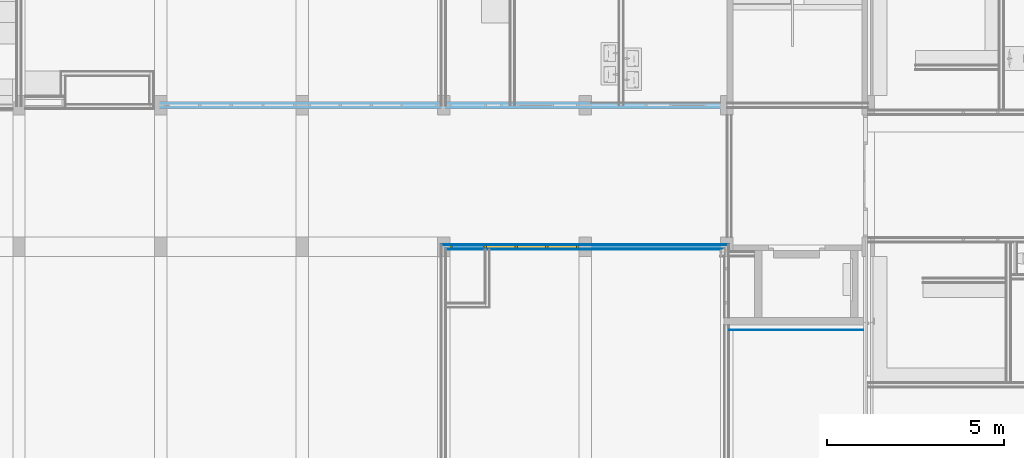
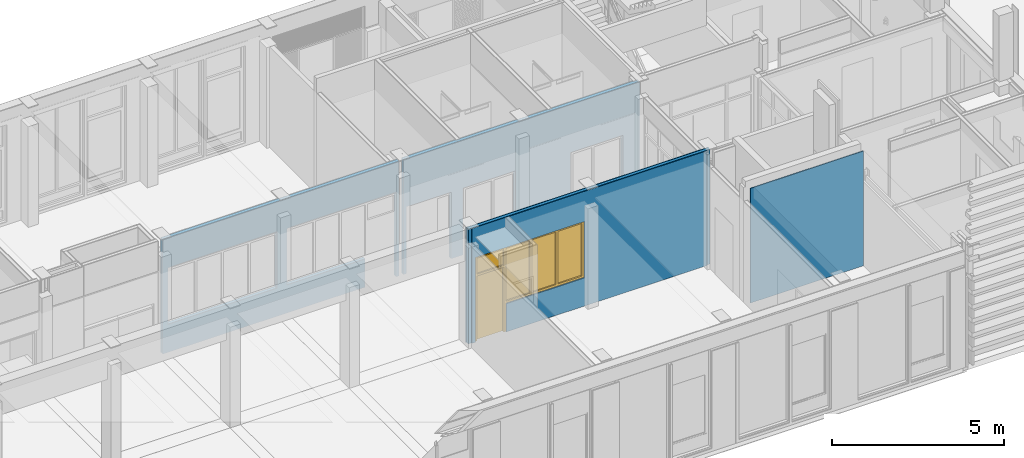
# One storey, part 64 of 109: 7 building element parts, 1 door, 6 openings, 3 elements without a shape of their own, plus 3 elements that do not belong to this part.
"""IFC2X3 building model written with IfcOpenShell, lengths in millimetres."""

from ifc_helpers import new_model, entity, si_unit, converted_unit, derived_unit, money_unit, direction, frame, origin_with_axes, place, context, subcontext, project, spatial, open_shell, faceted_brep, surface_model, material, type_object, element, fill, aggregate, save


model = new_model("IFC2X3")

# Units and contexts
model_context = context("Model", 3, precision=0.01, world=origin_with_axes(), true_north=direction((0.0, 1.0)))
body_context = subcontext(model_context, "Body", "Model", "MODEL_VIEW")
ifc_project = project(units=[si_unit("LENGTHUNIT", "METRE", prefix="MILLI"), si_unit("AREAUNIT", "SQUARE_METRE"), si_unit("VOLUMEUNIT", "CUBIC_METRE"), converted_unit("PLANEANGLEUNIT", "DEGREE", entity("IfcPlaneAngleMeasure", 0.0174532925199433), si_unit("PLANEANGLEUNIT", "RADIAN"), dimensions=[0, 0, 0, 0, 0, 0, 0]), money_unit("EUR"), converted_unit("TIMEUNIT", "Year", entity("IfcTimeMeasure", 31557600.0), si_unit("TIMEUNIT", "SECOND"), dimensions=[0, 0, 1, 0, 0, 0, 0]), si_unit("MASSUNIT", "GRAM", prefix="KILO"), si_unit("THERMODYNAMICTEMPERATUREUNIT", "DEGREE_CELSIUS"), si_unit("LUMINOUSINTENSITYUNIT", "LUMEN"), si_unit("ENERGYUNIT", "JOULE", prefix="MEGA"), derived_unit("THERMALCONDUCTANCEUNIT", [(si_unit("POWERUNIT", "WATT"), 1), (si_unit("LENGTHUNIT", "METRE"), -1), (si_unit("THERMODYNAMICTEMPERATUREUNIT", "KELVIN"), -1)]), derived_unit("SPECIFICHEATCAPACITYUNIT", [(si_unit("ENERGYUNIT", "JOULE"), 1), (si_unit("MASSUNIT", "GRAM", prefix="KILO"), -1), (si_unit("THERMODYNAMICTEMPERATUREUNIT", "KELVIN"), -1)]), derived_unit("MASSDENSITYUNIT", [(si_unit("MASSUNIT", "GRAM", prefix="KILO"), 1), (si_unit("VOLUMEUNIT", "CUBIC_METRE"), -1)])], contexts=[model_context])

# Site, building, storey
site_placement = place(None, origin_with_axes())
site = spatial("IfcSite", under=ifc_project, at=site_placement, Name="<site naam>", CompositionType="ELEMENT")
building_placement = place(site_placement, origin_with_axes())
building = spatial("IfcBuilding", under=site, at=building_placement, Name="<Naam gebouw>", CompositionType="ELEMENT")
storey_placement = place(building_placement, origin_with_axes())
storey = spatial("IfcBuildingStorey", under=building, at=storey_placement, Name="00 Begane grond", CompositionType="ELEMENT", Elevation=0.0)

# Door
door_style = type_object("IfcDoorStyle", Name="D1 bl zl1-b 27", ConstructionType="NOTDEFINED", OperationType="SINGLE_SWING_LEFT", ParameterTakesPrecedence=False, Sizeable=False)
wall_1_placement = place(storey_placement, frame((40000.00000000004, 8000.000000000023, 0.0), z_axis=(0.0, 0.0, 1.0), x_axis=(1.0, 0.0, 0.0)))
opening_1_placement = place(wall_1_placement, frame((1999.999999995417, 0.0, 0.0), z_axis=(0.0, 0.0, 1.0), x_axis=(1.0, 0.0, 0.0)))
door_placement = place(opening_1_placement, frame((-450.0000000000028, 0.0, 0.0), z_axis=(0.0, 0.0, 1.0), x_axis=(1.0, 0.0, 0.0)))
door = element("IfcDoor", 1, at=door_placement, inside=storey, type_object=door_style, Name="22_BI-E-02b_305", ObjectType="DOOR", OverallHeight=3000.0, OverallWidth=3650.0, context=body_context, shape_type="SurfaceModel", body=[
    faceted_brep([(2274.999999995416, 74.99999999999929, 1000.0), (2274.999999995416, -38.9999999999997, 1000.0), (2207.999999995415, -38.9999999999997, 1000.0), (2207.999999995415, 74.99999999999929, 1000.0), (2274.999999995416, 74.99999999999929, 2933.0), (2274.999999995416, -38.9999999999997, 2933.0), (2207.999999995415, -38.9999999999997, 2933.0), (2207.999999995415, -38.9999999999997, 1067.0), (2207.999999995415, 74.99999999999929, 1067.0), (2207.999999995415, 74.99999999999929, 2933.0)], [[[0, 1, 2, 3]], [[4, 5, 1, 0]], [[1, 5, 6, 7, 2]], [[3, 2, 7, 8]], [[0, 3, 8, 9, 4]], [[9, 6, 5, 4]], [[8, 7, 6, 9]]]),
    faceted_brep([(-407.9999999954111, 35.00000000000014, 2317.0), (-407.9999999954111, 35.00000000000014, 2300.0), (-407.9999999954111, -39.00000000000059, 2300.0), (-407.9999999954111, -39.00000000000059, 2367.0), (-407.9999999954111, 74.99999999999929, 2367.0), (-407.9999999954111, 74.99999999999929, 2317.0), (-390.9999999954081, 35.00000000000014, 2317.0), (-390.9999999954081, 35.00000000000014, 0.0), (-407.9999999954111, 35.00000000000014, 0.0), (-407.9999999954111, -39.00000000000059, 0.0), (-340.999999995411, -39.00000000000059, 0.0), (-340.999999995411, -39.00000000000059, 1000.0), (-340.999999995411, -39.00000000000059, 1067.0), (-340.999999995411, -39.00000000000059, 2933.0), (-407.9999999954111, -39.00000000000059, 2933.0), (-407.9999999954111, 74.99999999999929, 2933.0), (-390.9999999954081, 74.99999999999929, 2317.0), (-340.999999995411, 74.99999999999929, 2933.0), (-340.999999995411, 74.99999999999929, 1067.0), (-340.999999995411, 74.99999999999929, 1000.0), (-340.999999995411, 74.99999999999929, 0.0), (-390.9999999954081, 74.99999999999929, 0.0)], [[[0, 1, 2, 3, 4, 5]], [[0, 6, 7, 8, 1]], [[8, 9, 2, 1]], [[2, 9, 10, 11, 12, 13, 14, 3]], [[15, 4, 3, 14]], [[16, 5, 4, 15, 17, 18, 19, 20, 21]], [[5, 16, 6, 0]], [[21, 7, 6, 16]], [[7, 21, 20, 10, 9, 8]], [[20, 19, 11, 10]], [[19, 18, 12, 11]], [[18, 17, 13, 12]], [[17, 15, 14, 13]]]),
    faceted_brep([(2207.999999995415, 74.99999999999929, 1067.0), (2207.999999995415, -38.9999999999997, 1067.0), (2207.999999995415, -38.9999999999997, 1000.0), (2207.999999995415, 74.99999999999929, 1000.0), (-340.999999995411, 74.99999999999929, 1067.0), (-340.999999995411, -39.00000000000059, 1067.0), (-340.999999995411, -39.00000000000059, 1000.0), (-340.999999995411, 74.99999999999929, 1000.0)], [[[0, 1, 2, 3]], [[4, 5, 1, 0]], [[1, 5, 6, 2]], [[3, 2, 6, 7]], [[0, 3, 7, 4]], [[7, 6, 5, 4]]]),
    faceted_brep([(-1324.999999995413, 74.99999999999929, 2317.0), (-1324.999999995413, 74.99999999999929, 0.0), (-1374.99999999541, 74.99999999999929, 0.0), (-1374.99999999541, 74.99999999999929, 2933.0), (-1307.99999999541, 74.99999999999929, 2933.0), (-1307.99999999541, 74.99999999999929, 2367.0), (-1307.99999999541, 74.99999999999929, 2317.0), (-1324.999999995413, 35.00000000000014, 2317.0), (-1324.999999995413, 35.00000000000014, 0.0), (-1307.99999999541, 35.00000000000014, 0.0), (-1307.99999999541, -39.00000000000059, 0.0), (-1374.99999999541, -39.00000000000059, 0.0), (-1374.99999999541, -39.00000000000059, 2933.0), (-1307.99999999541, -39.00000000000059, 2933.0), (-1307.99999999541, -39.00000000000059, 2367.0), (-1307.99999999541, 35.00000000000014, 2317.0), (-1307.99999999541, -39.00000000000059, 2300.0)], [[[0, 1, 2, 3, 4, 5, 6]], [[0, 7, 8, 1]], [[8, 9, 10, 11, 2, 1]], [[3, 2, 11, 12]], [[4, 3, 12, 13]], [[5, 4, 13, 14]], [[15, 6, 5, 14, 16, 10, 9]], [[6, 15, 7, 0]], [[8, 7, 15, 9]], [[14, 13, 12, 11, 10, 16]]]),
    faceted_brep([(2274.999999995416, 74.99999999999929, 3000.0), (2274.999999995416, -38.9999999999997, 3000.0), (2274.999999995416, -38.9999999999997, 2933.0), (2274.999999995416, 74.99999999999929, 2933.0), (-1374.99999999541, 74.99999999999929, 3000.0), (-1374.99999999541, -39.00000000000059, 3000.0), (-1374.99999999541, -39.00000000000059, 2933.0), (-1307.99999999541, -39.00000000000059, 2933.0), (-407.9999999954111, -39.00000000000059, 2933.0), (-340.999999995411, -39.00000000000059, 2933.0), (2207.999999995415, -38.9999999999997, 2933.0), (2207.999999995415, 74.99999999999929, 2933.0), (-340.999999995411, 74.99999999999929, 2933.0), (-407.9999999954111, 74.99999999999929, 2933.0), (-1307.99999999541, 74.99999999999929, 2933.0), (-1374.99999999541, 74.99999999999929, 2933.0)], [[[0, 1, 2, 3]], [[4, 5, 1, 0]], [[1, 5, 6, 7, 8, 9, 10, 2]], [[3, 2, 10, 11]], [[0, 3, 11, 12, 13, 14, 15, 4]], [[15, 6, 5, 4]], [[14, 7, 6, 15]], [[13, 8, 7, 14]], [[12, 9, 8, 13]], [[11, 10, 9, 12]]]),
    faceted_brep([(-1307.99999999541, 35.00000000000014, 2317.0), (-1307.99999999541, 35.00000000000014, 2300.0), (-1307.99999999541, -39.00000000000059, 2300.0), (-1307.99999999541, -39.00000000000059, 2367.0), (-1307.99999999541, 74.99999999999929, 2367.0), (-1307.99999999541, 74.99999999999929, 2317.0), (-407.9999999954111, 35.00000000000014, 2317.0), (-407.9999999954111, 35.00000000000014, 2300.0), (-407.9999999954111, -39.00000000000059, 2300.0), (-407.9999999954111, -39.00000000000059, 2367.0), (-407.9999999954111, 74.99999999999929, 2367.0), (-407.9999999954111, 74.99999999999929, 2317.0)], [[[0, 1, 2, 3, 4, 5]], [[0, 6, 7, 1]], [[7, 8, 2, 1]], [[8, 9, 3, 2]], [[10, 4, 3, 9]], [[5, 4, 10, 11]], [[5, 11, 6, 0]], [[6, 11, 10, 9, 8, 7]]]),
    faceted_brep([(-1324.999999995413, 74.99999999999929, 0.0), (-390.9999999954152, 74.99999999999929, 0.0), (-390.9999999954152, 35.00000000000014, 0.0), (-1324.999999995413, 35.00000000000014, 0.0), (-1324.999999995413, 74.99999999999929, 2317.0), (-390.9999999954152, 74.99999999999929, 2317.0), (-390.9999999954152, 35.00000000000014, 2317.0), (-1324.999999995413, 35.00000000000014, 2317.0)], [[[0, 1, 2, 3]], [[0, 4, 5, 1]], [[1, 5, 6, 2]], [[3, 2, 6, 7]], [[4, 0, 3, 7]], [[5, 4, 7, 6]]]),
    surface_model("IfcShellBasedSurfaceModel", [(-407.9999999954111, 20.99999999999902, 2367.0), (-1307.99999999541, 20.99999999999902, 2367.0), (-1307.99999999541, 20.99999999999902, 2933.0), (-407.9999999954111, 20.99999999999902, 2933.0)], [open_shell([[[0, 1, 2, 3]]])]),
    surface_model("IfcShellBasedSurfaceModel", [(-407.9999999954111, 8.999999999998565, 2367.0), (-407.9999999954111, 9.000000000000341, 2933.0), (-1307.99999999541, 9.000000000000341, 2933.0), (-1307.99999999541, 8.999999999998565, 2367.0)], [open_shell([[[0, 1, 2, 3]]])]),
    surface_model("IfcShellBasedSurfaceModel", [(1402.999999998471, 20.99999999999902, 1067.0), (1402.999999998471, 20.99999999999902, 2933.0), (2207.999999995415, 20.99999999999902, 2933.0), (2207.999999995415, 20.99999999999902, 1067.0)], [open_shell([[[0, 1, 2, 3]]])]),
    surface_model("IfcShellBasedSurfaceModel", [(1402.999999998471, 8.999999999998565, 1067.0), (2207.999999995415, 8.999999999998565, 1067.0), (2207.999999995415, 9.000000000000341, 2933.0), (1402.999999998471, 9.000000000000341, 2933.0)], [open_shell([[[0, 1, 2, 3]]])]),
    surface_model("IfcShellBasedSurfaceModel", [(531.0000000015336, 20.99999999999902, 1067.0), (531.0000000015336, 20.99999999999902, 2933.0), (1335.999999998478, 20.99999999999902, 2933.0), (1335.999999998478, 20.99999999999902, 1067.0)], [open_shell([[[0, 1, 2, 3]]])]),
    surface_model("IfcShellBasedSurfaceModel", [(531.0000000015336, 8.999999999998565, 1067.0), (1335.999999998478, 8.999999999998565, 1067.0), (1335.999999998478, 9.000000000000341, 2933.0), (531.0000000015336, 9.000000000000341, 2933.0)], [open_shell([[[0, 1, 2, 3]]])]),
    surface_model("IfcShellBasedSurfaceModel", [(-340.999999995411, 20.99999999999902, 1067.0), (-340.999999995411, 20.99999999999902, 2933.0), (464.0000000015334, 20.99999999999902, 2933.0), (464.0000000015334, 20.99999999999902, 1067.0)], [open_shell([[[0, 1, 2, 3]]])]),
    surface_model("IfcShellBasedSurfaceModel", [(-340.999999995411, 8.999999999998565, 1067.0), (464.0000000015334, 8.999999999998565, 1067.0), (464.0000000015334, 9.000000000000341, 2933.0), (-340.999999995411, 9.000000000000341, 2933.0)], [open_shell([[[0, 1, 2, 3]]])]),
    faceted_brep([(1402.999999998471, 74.99999999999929, 1067.0), (1402.999999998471, -38.9999999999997, 1067.0), (1335.999999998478, -38.9999999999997, 1067.0), (1335.999999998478, 74.99999999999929, 1067.0), (1402.999999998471, 74.99999999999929, 2933.0), (1402.999999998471, -38.9999999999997, 2933.0), (1335.999999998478, -38.9999999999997, 2933.0), (1335.999999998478, 74.99999999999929, 2933.0)], [[[0, 1, 2, 3]], [[4, 5, 1, 0]], [[1, 5, 6, 2]], [[3, 2, 6, 7]], [[0, 3, 7, 4]], [[7, 6, 5, 4]]]),
    faceted_brep([(531.0000000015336, 74.99999999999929, 1067.0), (531.0000000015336, -38.9999999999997, 1067.0), (464.0000000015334, -38.9999999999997, 1067.0), (464.0000000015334, 74.99999999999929, 1067.0), (531.0000000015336, 74.99999999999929, 2933.0), (531.0000000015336, -38.9999999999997, 2933.0), (464.0000000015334, -38.9999999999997, 2933.0), (464.0000000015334, 74.99999999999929, 2933.0)], [[[0, 1, 2, 3]], [[4, 5, 1, 0]], [[1, 5, 6, 2]], [[3, 2, 6, 7]], [[0, 3, 7, 4]], [[7, 6, 5, 4]]]),
])

# Wall, opening
wall_type_1 = type_object("IfcWallType", Name="MS-01 GF 150 ECO DGS/2.100.2.A 150", PredefinedType="NOTDEFINED")
wall_1 = element("IfcWall", 2, at=wall_1_placement, inside=storey, type_object=wall_type_1, Name="22_Binnenwand_MS-01")
opening_1 = element("IfcOpeningElement", 3, at=opening_1_placement, cuts=wall_1, Name="22_BI-E-02b_305", context=body_context, shape_type="Brep", body=[
    faceted_brep([(-1824.999999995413, -76.00000000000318, 3000.0), (-1824.999999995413, -76.00000000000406, 0.0), (-790.9999999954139, -76.00000000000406, 0.0), (-790.9999999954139, -76.00000000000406, 1000.0), (1824.999999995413, -76.00000000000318, 1000.0), (1824.999999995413, -76.00000000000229, 3000.0), (-1824.999999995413, 76.00000000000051, 3000.0), (-1824.999999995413, 75.99999999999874, 0.0), (-790.9999999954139, 75.99999999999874, 0.0), (-790.9999999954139, 75.99999999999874, 1000.0), (1824.999999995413, 75.99999999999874, 1000.0), (1824.999999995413, 76.00000000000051, 3000.0)], [[[0, 1, 2, 3, 4, 5]], [[6, 7, 1, 0]], [[7, 8, 2, 1]], [[8, 9, 3, 2]], [[9, 10, 4, 3]], [[10, 11, 5, 4]], [[11, 6, 0, 5]], [[8, 7, 6, 11, 10, 9]]]),
])

fill(opening_1, door)

# Building element part
ifc_material_1 = material(Name="gipsplaat")
building_element_part_1_placement = place(wall_1_placement, origin_with_axes())
building_element_part_1 = element("IfcBuildingElementPart", 4, at=building_element_part_1_placement, material=ifc_material_1, Name="gipsplaat", context=body_context, shape_type="Brep", body=[
    faceted_brep([(8074.999999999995, 62.50000000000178, 3.000000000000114), (8074.999999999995, 75.00000000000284, 3.000000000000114), (8074.999999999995, 75.00000000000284, 4070.0), (8074.999999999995, 62.50000000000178, 4070.0), (8037.380267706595, 75.00000000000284, 3.000000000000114), (8037.380267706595, 62.50000000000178, 3.000000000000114), (8037.380267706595, 75.00000024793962, 0.0), (4174.55451779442, 75.00002570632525, 0.0), (4174.55451779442, 75.00002570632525, 3.000000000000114), (175.0000000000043, 75.00002570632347, 3.000000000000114), (175.0000000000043, 75.00002570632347, 0.0), (-75.00000000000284, 74.99999999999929, 0.0), (-75.00000000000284, 75.00000000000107, 4070.0), (-75.00000000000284, 62.5, 4070.0), (-75.00000000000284, 62.5, 0.0), (175.0000000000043, 62.5, 0.0), (175.0000000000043, 62.5, 3.000000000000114), (4174.55451779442, 62.50000000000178, 3.000000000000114), (4174.55451779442, 62.50000000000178, 0.0), (8037.380267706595, 62.50000000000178, 0.0)], [[[0, 1, 2, 3]], [[4, 1, 0, 5]], [[4, 6, 7, 8, 9, 10, 11, 12, 2, 1]], [[3, 2, 12, 13]], [[5, 0, 3, 13, 14, 15, 16, 17, 18, 19]], [[6, 4, 5, 19]], [[6, 19, 18, 7]], [[8, 7, 18, 17]], [[9, 8, 17, 16]], [[10, 9, 16, 15]], [[10, 15, 14, 11]], [[14, 13, 12, 11]]]),
])

building_element_part_2_placement = place(wall_1_placement, origin_with_axes())
building_element_part_2 = element("IfcBuildingElementPart", 5, at=building_element_part_2_placement, material=ifc_material_1, Name="gipsplaat", context=body_context, shape_type="Brep", body=[
    faceted_brep([(8062.499999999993, 54.99999853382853, 0.0), (8062.499999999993, 54.99999853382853, 3.000000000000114), (8062.499999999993, 62.50000000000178, 3.000000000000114), (8062.499999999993, 62.50000000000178, 4070.0), (8062.499999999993, 50.00000000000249, 4070.0), (8062.499999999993, 50.00000000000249, 0.0), (8037.380267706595, 54.99999853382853, 0.0), (8037.380267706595, 54.99999853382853, 3.000000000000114), (8037.380267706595, 62.50000000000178, 3.000000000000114), (8037.380267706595, 62.50000000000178, 0.0), (4174.55451779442, 62.50000000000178, 0.0), (4174.55451779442, 62.50000000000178, 3.000000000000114), (175.0000000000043, 62.5, 3.000000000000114), (175.0000000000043, 62.5, 0.0), (-62.5, 62.5, 0.0), (-62.5, 62.5, 4070.0), (-62.5, 50.00000000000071, 4070.0), (4174.55451779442, 50.00000000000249, 3.000000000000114), (4174.55451779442, 50.00000000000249, 0.0), (-62.5, 50.00000000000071, 0.0), (175.0000000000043, 50.00000000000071, 0.0), (175.0000000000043, 50.00000000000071, 3.000000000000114)], [[[0, 1, 2, 3, 4, 5]], [[1, 0, 6, 7]], [[8, 2, 1, 7]], [[8, 9, 10, 11, 12, 13, 14, 15, 3, 2]], [[4, 3, 15, 16]], [[17, 18, 5, 4, 16, 19, 20, 21]], [[6, 0, 5, 18, 10, 9]], [[9, 8, 7, 6]], [[11, 10, 18, 17]], [[12, 11, 17, 21]], [[13, 12, 21, 20]], [[13, 20, 19, 14]], [[19, 16, 15, 14]]]),
])

ifc_material_2 = material(Name="isolatie_steenwol LSW")
building_element_part_3_placement = place(wall_1_placement, origin_with_axes())
building_element_part_3 = element("IfcBuildingElementPart", 6, at=building_element_part_3_placement, material=ifc_material_2, Name="isolatie_steenwol LSW", context=body_context, shape_type="Brep", body=[
    faceted_brep([(175.0000000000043, 50.00000000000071, 3.000000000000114), (175.0000000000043, 50.00000000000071, 0.0), (-49.99999999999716, 50.00000000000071, 0.0), (-49.99999999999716, 50.00000000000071, 4070.0), (8049.99999999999, 50.00000000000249, 4070.0), (8049.99999999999, 50.00000000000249, 0.0), (4174.55451779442, 50.00000000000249, 0.0), (4174.55451779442, 50.00000000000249, 3.000000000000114), (175.0000000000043, -49.99999999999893, 3.000000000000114), (175.0000000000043, -49.99999999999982, 0.0), (-49.99999999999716, -49.99999999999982, 0.0), (-49.99999999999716, -49.99999999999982, 4070.0), (8049.99999999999, -49.99999999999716, 4070.0), (8049.99999999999, -49.99999999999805, 0.0), (4174.55451779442, -49.99999999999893, 0.0), (4174.55451779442, -49.99999999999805, 3.000000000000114)], [[[0, 1, 2, 3, 4, 5, 6, 7]], [[1, 0, 8, 9]], [[1, 9, 10, 2]], [[10, 11, 3, 2]], [[12, 4, 3, 11]], [[4, 12, 13, 5]], [[14, 6, 5, 13]], [[7, 6, 14, 15]], [[0, 7, 15, 8]], [[15, 14, 13, 12, 11, 10, 9, 8]]]),
])

building_element_part_4_placement = place(wall_1_placement, origin_with_axes())
building_element_part_4 = element("IfcBuildingElementPart", 7, at=building_element_part_4_placement, material=ifc_material_1, Name="gipsplaat", context=body_context, shape_type="Brep", body=[
    faceted_brep([(175.0000000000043, -62.5, 3.000000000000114), (175.0000000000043, -62.5, 0.0), (62.5, -62.5, 0.0), (62.5, -62.5, 4070.0), (7937.499999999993, -62.49999999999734, 4070.0), (7937.499999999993, -62.49999999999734, 0.0), (4174.55451779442, -62.49999999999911, 0.0), (4174.55451779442, -62.49999999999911, 3.000000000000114), (175.0000000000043, -74.99999999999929, 3.000000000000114), (175.0000000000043, -75.00000000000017, 0.0), (62.5, -75.00000000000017, 0.0), (62.5, -75.00000000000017, 4070.0), (7937.499999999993, -74.99999999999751, 4070.0), (7937.499999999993, -74.99999999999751, 0.0), (4174.55451779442, -74.99999999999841, 0.0), (4174.55451779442, -74.99999999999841, 3.000000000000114)], [[[0, 1, 2, 3, 4, 5, 6, 7]], [[1, 0, 8, 9]], [[1, 9, 10, 2]], [[10, 11, 3, 2]], [[12, 4, 3, 11]], [[4, 12, 13, 5]], [[14, 6, 5, 13]], [[7, 6, 14, 15]], [[0, 7, 15, 8]], [[15, 14, 13, 12, 11, 10, 9, 8]]]),
])

building_element_part_5_placement = place(wall_1_placement, origin_with_axes())
building_element_part_5 = element("IfcBuildingElementPart", 8, at=building_element_part_5_placement, material=ifc_material_1, Name="gipsplaat", context=body_context, shape_type="Brep", body=[
    faceted_brep([(175.0000000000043, -50.00000000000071, 3.000000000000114), (175.0000000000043, -49.99999999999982, 0.0), (49.99999999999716, -49.99999999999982, 0.0), (49.99999999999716, -49.99999999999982, 4070.0), (7949.999999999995, -49.99999999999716, 4070.0), (7949.999999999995, -49.99999999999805, 0.0), (4174.55451779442, -49.99999999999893, 0.0), (4174.55451779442, -49.99999999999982, 3.000000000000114), (175.0000000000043, -62.5, 3.000000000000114), (175.0000000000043, -62.5, 0.0), (49.99999999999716, -62.5, 0.0), (49.99999999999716, -62.5, 4070.0), (7949.999999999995, -62.49999999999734, 4070.0), (7949.999999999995, -62.49999999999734, 0.0), (4174.55451779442, -62.49999999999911, 0.0), (4174.55451779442, -62.49999999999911, 3.000000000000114)], [[[0, 1, 2, 3, 4, 5, 6, 7]], [[1, 0, 8, 9]], [[1, 9, 10, 2]], [[10, 11, 3, 2]], [[12, 4, 3, 11]], [[4, 12, 13, 5]], [[14, 6, 5, 13]], [[7, 6, 14, 15]], [[0, 7, 15, 8]], [[15, 14, 13, 12, 11, 10, 9, 8]]]),
])

aggregate(wall_1, [building_element_part_1, building_element_part_2, building_element_part_3, building_element_part_4, building_element_part_5])

# Wall, openings, building element parts
wall_2_placement = place(storey_placement, frame((32000.05040030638, 11999.96371028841, 0.0), z_axis=(0.0, 0.0, 1.0), x_axis=(0.999999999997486, 2.242345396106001e-06, 0.0)))
wall_2 = element("IfcWall", 9, at=wall_2_placement, inside=storey, type_object=wall_type_1, Name="22_Binnenwand_MS-01")
opening_2_placement = place(wall_2_placement, frame((1999.982031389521, 0.0, 1000.0), z_axis=(0.0, 0.0, 1.0), x_axis=(1.0, 0.0, 0.0)))
element("IfcOpeningElement", 10, at=opening_2_placement, cuts=wall_2, Name="22_BI-E-01_305", context=body_context, shape_type="Brep", body=[
    faceted_brep([(1824.967290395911, 76.02730055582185, 2000.0), (1824.967290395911, 76.02730055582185, 0.0), (-1824.966613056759, 76.03548496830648, 0.0), (-1824.966613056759, 76.03548496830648, 2000.0), (1824.966949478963, -76.00857685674, 2000.0), (1824.966949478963, -76.00857685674, 0.0), (-1824.966953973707, -76.00039244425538, 0.0), (-1824.966953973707, -76.00039244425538, 2000.0)], [[[0, 1, 2, 3]], [[4, 5, 1, 0]], [[5, 6, 2, 1]], [[6, 7, 3, 2]], [[7, 4, 0, 3]], [[6, 5, 4, 7]]]),
])
opening_3_placement = place(wall_2_placement, frame((10949.95021639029, 0.0, 0.0), z_axis=(0.0, 0.0, 1.0), x_axis=(1.0, 0.0, 0.0)))
element("IfcOpeningElement", 11, at=opening_3_placement, cuts=wall_2, Name="22_BI-C-01_305", context=body_context, shape_type="Brep", body=[
    faceted_brep([(875.0003386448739, 76.00936178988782, 2367.0), (875.0003386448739, 76.00936178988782, 0.0), (-874.9996613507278, 76.0132858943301, 0.0), (-874.9996613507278, 76.0132858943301, 2367.0), (874.9999977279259, -76.02651562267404, 2367.0), (874.9999977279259, -76.02651562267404, 0.0), (-875.0000022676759, -76.02259151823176, 0.0), (-875.0000022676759, -76.02259151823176, 2367.0)], [[[0, 1, 2, 3]], [[4, 5, 1, 0]], [[5, 6, 2, 1]], [[6, 7, 3, 2]], [[7, 4, 0, 3]], [[6, 5, 4, 7]]]),
])
opening_4_placement = place(wall_2_placement, frame((8924.950216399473, 0.0, 0.0), z_axis=(0.0, 0.0, 1.0), x_axis=(1.0, 0.0, 0.0)))
element("IfcOpeningElement", 12, at=opening_4_placement, cuts=wall_2, Name="22_BI-C-02 sp_305", context=body_context, shape_type="Brep", body=[
    faceted_brep([(750.000338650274, 76.0141828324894, 2367.0), (750.000338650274, 76.0141828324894, 0.0), (-749.99966134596, 76.01754635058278, 0.0), (-749.99966134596, 76.01754635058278, 2367.0), (749.999997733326, -76.02169458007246, 2367.0), (749.999997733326, -76.02169458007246, 0.0), (-750.0000022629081, -76.01833106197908, 0.0), (-750.0000022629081, -76.01833106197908, 2367.0)], [[[0, 1, 2, 3]], [[4, 5, 1, 0]], [[5, 6, 2, 1]], [[6, 7, 3, 2]], [[7, 4, 0, 3]], [[6, 5, 4, 7]]]),
])
opening_5_placement = place(wall_2_placement, frame((14554.32530861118, 0.0, 0.0), z_axis=(0.0, 0.0, 1.0), x_axis=(1.0, 0.0, 0.0)))
element("IfcOpeningElement", 13, at=opening_5_placement, cuts=wall_2, Name="22_BI-C-01 sp_305", context=body_context, shape_type="Brep", body=[
    faceted_brep([(875.0003386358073, 76.00127953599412, 2367.0), (875.0003386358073, 76.00127953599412, 0.0), (-874.9996613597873, 76.00520364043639, 0.0), (-874.9996613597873, 76.00520364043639, 2367.0), (874.9999977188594, -76.03459787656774, 2367.0), (874.9999977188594, -76.03459787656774, 0.0), (-875.0000022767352, -76.03067377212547, 0.0), (-875.0000022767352, -76.03067377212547, 2367.0)], [[[0, 1, 2, 3]], [[4, 5, 1, 0]], [[5, 6, 2, 1]], [[6, 7, 3, 2]], [[7, 4, 0, 3]], [[6, 5, 4, 7]]]),
])
opening_6_placement = place(wall_2_placement, frame((5999.95021640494, 0.0, 0.0), z_axis=(0.0, 0.0, 1.0), x_axis=(1.0, 0.0, 0.0)))
element("IfcOpeningElement", 14, at=opening_6_placement, cuts=wall_2, Name="22_BI-E-02_305", context=body_context, shape_type="Brep", body=[
    faceted_brep([(1825.000338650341, 76.01833117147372, 3000.0), (1825.000338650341, 76.01833117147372, 0.0), (791.0003386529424, 76.02064975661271, 0.0), (791.0003386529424, 76.02064975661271, 1000.0), (-1824.999661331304, 76.02651573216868, 1000.0), (-1824.999661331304, 76.02651573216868, 3000.0), (1824.999997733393, -76.01754624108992, 3000.0), (1824.999997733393, -76.01754624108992, 0.0), (790.9999977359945, -76.01522765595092, 0.0), (790.9999977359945, -76.01522765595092, 1000.0), (-1825.000002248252, -76.00936168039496, 1000.0), (-1825.000002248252, -76.00936168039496, 3000.0)], [[[0, 1, 2, 3, 4, 5]], [[6, 7, 1, 0]], [[7, 8, 2, 1]], [[8, 9, 3, 2]], [[9, 10, 4, 3]], [[10, 11, 5, 4]], [[11, 6, 0, 5]], [[8, 7, 6, 11, 10, 9]]]),
])
building_element_part_6_placement = place(wall_2_placement, origin_with_axes())
building_element_part_6 = element("IfcBuildingElementPart", 15, at=building_element_part_6_placement, material=ifc_material_1, Name="gipsplaat", context=body_context, shape_type="Brep", body=[
    faceted_brep([(8074.949711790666, 49.98189317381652, 4070.0), (15999.94971181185, 49.9641225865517, 4070.0), (15999.94973984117, 62.46412258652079, 4070.0), (8074.949739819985, 62.48189317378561, 4070.0), (8074.949711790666, 49.98189317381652, 0.0), (15999.94971181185, 49.9641225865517, 0.0), (15999.94973984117, 62.46412258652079, 0.0), (8074.949739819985, 62.48189317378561, 0.0)], [[[0, 1, 2, 3]], [[4, 5, 1, 0]], [[2, 1, 5, 6]], [[3, 2, 6, 7]], [[4, 0, 3, 7]], [[7, 6, 5, 4]]]),
    faceted_brep([(7924.949711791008, 49.98222952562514, 3.000000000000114), (7924.949739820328, 62.48222952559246, 3.000000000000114), (7924.949739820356, 62.48222952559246, 4070.0), (7924.949711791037, 49.98222952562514, 4070.0), (0.0001401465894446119, 62.4999999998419, 3.000000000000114), (0.000112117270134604, 49.99999999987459, 3.000000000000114), (0.0001401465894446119, 62.4999999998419, 4070.0), (0.000112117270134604, 49.99999999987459, 4070.0)], [[[0, 1, 2, 3]], [[4, 1, 0, 5]], [[1, 4, 6, 2]], [[3, 2, 6, 7]], [[5, 0, 3, 7]], [[4, 5, 7, 6]]]),
])
building_element_part_7_placement = place(wall_2_placement, origin_with_axes())
building_element_part_7 = element("IfcBuildingElementPart", 16, at=building_element_part_7_placement, material=ifc_material_1, Name="gipsplaat", context=body_context, shape_type="Brep", body=[
    faceted_brep([(8074.949459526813, -62.51810682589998, 4070.0), (15999.949459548, -62.5358774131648, 4070.0), (15999.94948757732, -50.03587741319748, 4070.0), (8074.949487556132, -50.01810682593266, 4070.0), (8074.949459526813, -62.51810682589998, 0.0), (15999.949459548, -62.5358774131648, 0.0), (15999.94948757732, -50.03587741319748, 0.0), (8074.949487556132, -50.01810682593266, 0.0)], [[[0, 1, 2, 3]], [[4, 5, 1, 0]], [[2, 1, 5, 6]], [[3, 2, 6, 7]], [[4, 0, 3, 7]], [[7, 6, 5, 4]]]),
    faceted_brep([(7924.949459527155, -62.51777047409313, 3.000000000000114), (7924.949487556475, -50.01777047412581, 3.000000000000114), (7924.949487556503, -50.01777047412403, 4070.0), (7924.949459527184, -62.51777047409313, 4070.0), (-0.0001121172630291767, -49.99999999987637, 3.000000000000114), (-0.0001401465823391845, -62.49999999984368, 3.000000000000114), (-0.0001121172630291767, -49.99999999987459, 4070.0), (-0.0001401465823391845, -62.49999999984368, 4070.0)], [[[0, 1, 2, 3]], [[4, 1, 0, 5]], [[1, 4, 6, 2]], [[3, 2, 6, 7]], [[5, 0, 3, 7]], [[4, 5, 7, 6]]]),
])
building_element_part_8_placement = place(wall_2_placement, origin_with_axes())
building_element_part_8 = element("IfcBuildingElementPart", 17, at=building_element_part_8_placement, material=ifc_material_2, Name="isolatie_steenwol LSW", context=body_context, shape_type="Brep", body=[
    faceted_brep([(8074.949487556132, -50.01810682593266, 4070.0), (15999.94948757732, -50.03587741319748, 4070.0), (15999.94971181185, 49.9641225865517, 4070.0), (8074.949711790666, 49.98189317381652, 4070.0), (8074.949487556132, -50.01810682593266, 0.0), (15999.94948757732, -50.03587741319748, 0.0), (15999.94971181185, 49.9641225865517, 0.0), (8074.949711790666, 49.98189317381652, 0.0)], [[[0, 1, 2, 3]], [[4, 5, 1, 0]], [[2, 1, 5, 6]], [[3, 2, 6, 7]], [[4, 0, 3, 7]], [[7, 6, 5, 4]]]),
    faceted_brep([(7924.949487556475, -50.01777047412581, 3.000000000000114), (7924.949711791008, 49.98222952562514, 3.000000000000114), (7924.949711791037, 49.98222952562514, 4070.0), (7924.949487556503, -50.01777047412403, 4070.0), (0.000112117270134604, 49.99999999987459, 3.000000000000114), (-0.0001121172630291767, -49.99999999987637, 3.000000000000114), (0.000112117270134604, 49.99999999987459, 4070.0), (-0.0001121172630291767, -49.99999999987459, 4070.0)], [[[0, 1, 2, 3]], [[4, 1, 0, 5]], [[1, 4, 6, 2]], [[3, 2, 6, 7]], [[5, 0, 3, 7]], [[4, 5, 7, 6]]]),
])
aggregate(wall_2, [building_element_part_6, building_element_part_7, building_element_part_8])

# Wall, building element parts
wall_type_2 = type_object("IfcWallType", Name="voorzetwand 150", PredefinedType="NOTDEFINED")
wall_3_placement = place(storey_placement, frame((51865.00000000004, 5791.000000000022, 0.0), z_axis=(0.0, 0.0, 1.0), x_axis=(-1.0, 0.0, 0.0)))
wall_3 = element("IfcWall", 18, at=wall_3_placement, inside=storey, type_object=wall_type_2, Name="22_Binnenwand_voorzetwand")
building_element_part_9_placement = place(wall_3_placement, origin_with_axes())
building_element_part_9 = element("IfcBuildingElementPart", 19, at=building_element_part_9_placement, material=ifc_material_1, Name="gipsplaat", context=body_context, shape_type="Brep", body=[
    faceted_brep([(0.0, 150.0000000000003, 3.000000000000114), (0.0, 137.5000000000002, 3.000000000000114), (0.0, 137.5000000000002, 4070.0), (0.0, 150.0000000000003, 4070.0), (3790.00000000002, 137.5000000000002, 3.000000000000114), (3790.00000000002, 150.0000000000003, 3.000000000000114), (3790.000000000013, 137.5000000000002, 4070.0), (3790.000000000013, 150.0000000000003, 4070.0)], [[[0, 1, 2, 3]], [[4, 1, 0, 5]], [[1, 4, 6, 2]], [[2, 6, 7, 3]], [[5, 0, 3, 7]], [[4, 5, 7, 6]]]),
])
building_element_part_10_placement = place(wall_3_placement, origin_with_axes())
building_element_part_10 = element("IfcBuildingElementPart", 20, at=building_element_part_10_placement, material=ifc_material_1, Name="gipsplaat", context=body_context, shape_type="Brep", body=[
    faceted_brep([(0.0, 137.5000000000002, 3.000000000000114), (0.0, 125.0, 3.000000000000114), (0.0, 125.0, 4070.0), (0.0, 137.5000000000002, 4070.0), (3790.00000000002, 125.0, 3.000000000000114), (3790.00000000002, 137.4999999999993, 3.000000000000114), (3790.000000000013, 125.0, 4070.0), (3790.000000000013, 137.5000000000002, 4070.0)], [[[0, 1, 2, 3]], [[4, 1, 0, 5]], [[1, 4, 6, 2]], [[2, 6, 7, 3]], [[5, 0, 3, 7]], [[4, 5, 7, 6]]]),
])
aggregate(wall_3, [building_element_part_9, building_element_part_10])

save(model, "model.ifc")
